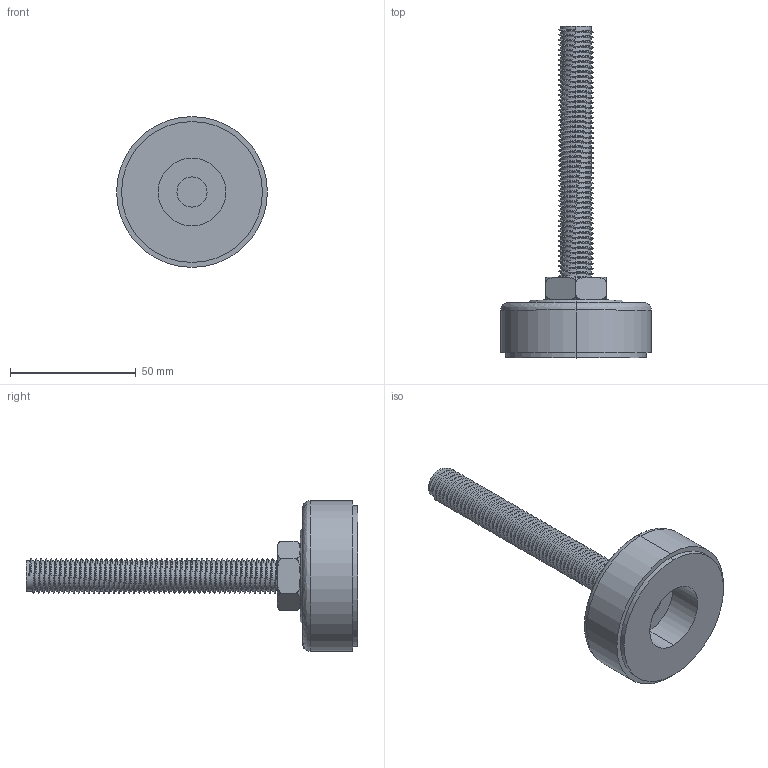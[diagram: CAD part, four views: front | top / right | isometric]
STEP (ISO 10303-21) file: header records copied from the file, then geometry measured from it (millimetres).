
FILE_DESCRIPTION (( 'STEP AP203' ), '1' );
FILE_NAME ('DY-D6016100S.STEP', '2020-03-26T08:31:11', ( '' ), ( '' ), 'SwSTEP 2.0', 'SolidWorks 2017', '' );
FILE_SCHEMA (( 'CONFIG_CONTROL_DESIGN' ));
Length unit declared in the file: millimetre
Products named in the file (3): DY-D6016100S; 底座BS60; 螺桿M16XL100XP2
Assembly tree (2 placements, depth 2):
  DY-D6016100S
    底座BS60
    螺桿M16XL100XP2
Bounding box: 60 x 132 x 60 mm (x, y, z)
Volume: 70892.7 mm3; surface area: 19540.2 mm2
Topology: 2 solids, 2 shells, 136 faces, 375 edges, 248 vertices
Faces by surface type: cylinder 110, plane 16, bspline 8, cone 2
Entity records: 11991 total; most frequent: CARTESIAN_POINT 8859, ORIENTED_EDGE 750, DIRECTION 454, EDGE_CURVE 375, VERTEX_POINT 248, AXIS2_PLACEMENT_3D 167, EDGE_LOOP 143, ADVANCED_FACE 136
